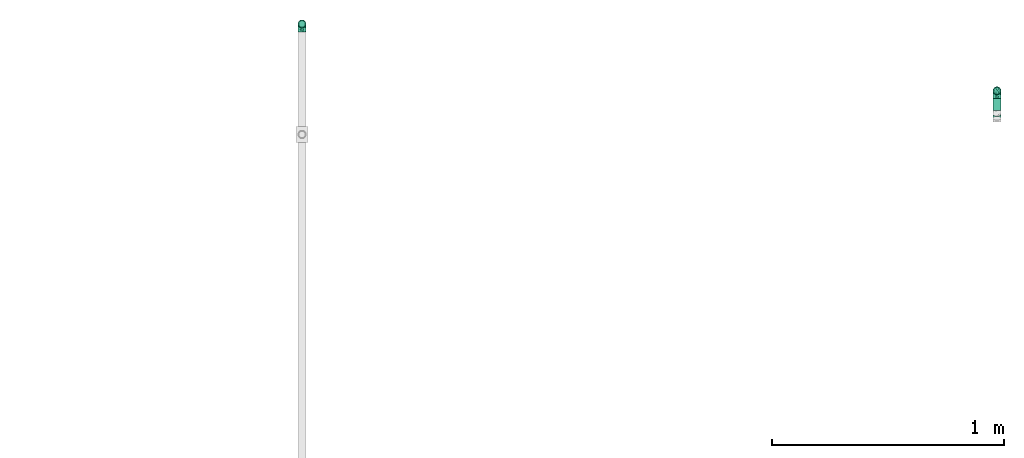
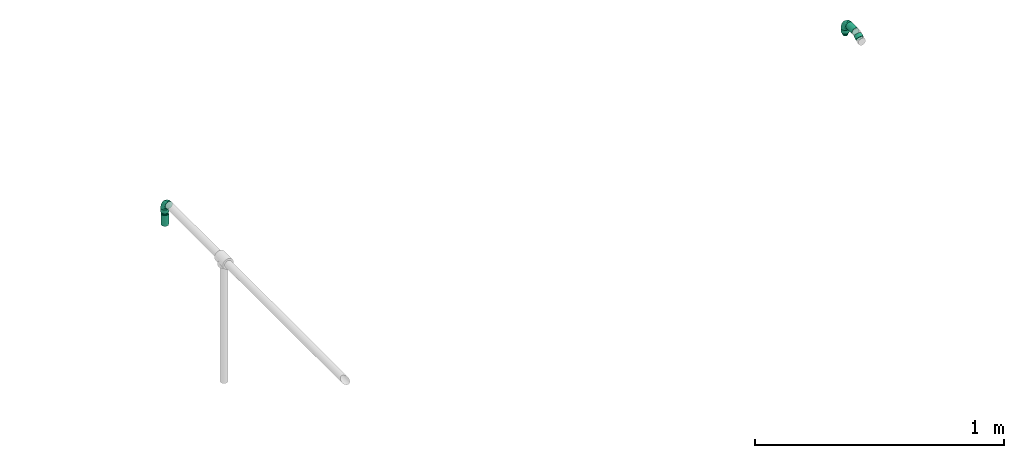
# One storey, part 12 of 17: 4 flow fittings, 4 flow segments, 1 flow terminal.
"""IFC2X3 building model written with IfcOpenShell, lengths in millimetres."""

from ifc_helpers import new_model, entity, si_unit, converted_unit, derived_unit, direction, frame, origin_with_axes, origin_2d_with_axis, place, context, subcontext, project, spatial, hollow_circle, extrude, open_shell, surface_model, source, transform, mapped, type_object, element, save


model = new_model("IFC2X3")

# Units and contexts
model_context = context("Model", 3, precision=0.01, world=frame((0.0, 4.29681676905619e-09, 0.0)), true_north=direction((4.01073788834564e-13, 1.0)))
plan_context = context("Plan", 3, precision=0.01, world=frame((0.0, 4.29681676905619e-09, 0.0)), true_north=direction((4.01073788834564e-13, 1.0)))
body_context = subcontext(model_context, "Body", "Model", "MODEL_VIEW")
ifc_project = project(units=[converted_unit("PLANEANGLEUNIT", "DEGREE", entity("IfcPositiveLengthMeasure", 0.0174532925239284), si_unit("PLANEANGLEUNIT", "RADIAN"), dimensions=[0, 0, 0, 0, 0, 0, 0]), si_unit("AREAUNIT", "SQUARE_METRE"), si_unit("LENGTHUNIT", "METRE", prefix="MILLI"), si_unit("MASSUNIT", "GRAM", prefix="KILO"), si_unit("POWERUNIT", "WATT"), si_unit("PRESSUREUNIT", "PASCAL"), si_unit("FORCEUNIT", "NEWTON", prefix="KILO"), si_unit("ELECTRICVOLTAGEUNIT", "VOLT"), si_unit("ELECTRICCURRENTUNIT", "AMPERE"), si_unit("THERMODYNAMICTEMPERATUREUNIT", "DEGREE_CELSIUS"), si_unit("TIMEUNIT", "SECOND"), si_unit("VOLUMEUNIT", "CUBIC_METRE"), derived_unit("LINEARVELOCITYUNIT", [(si_unit("LENGTHUNIT", "METRE"), 1), (si_unit("TIMEUNIT", "SECOND"), -1)]), derived_unit("VOLUMETRICFLOWRATEUNIT", [(si_unit("VOLUMEUNIT", "CUBIC_METRE"), 1), (si_unit("TIMEUNIT", "SECOND"), -1)]), derived_unit("THERMALTRANSMITTANCEUNIT", [(si_unit("POWERUNIT", "WATT"), 1), (si_unit("THERMODYNAMICTEMPERATUREUNIT", "KELVIN"), -1), (si_unit("AREAUNIT", "SQUARE_METRE"), -1)]), derived_unit("SOUNDPRESSUREUNIT", [(si_unit("PRESSUREUNIT", "PASCAL"), 1)])], contexts=[model_context, plan_context])

# Site, building, storey
site_placement = place(None, frame((0.0, -4.29681676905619e-09, 0.0), z_axis=(0.0, 0.0, 1.0), x_axis=(1.0, 0.0, 0.0)))
site = spatial("IfcSite", under=ifc_project, at=site_placement, Name="ENGM", CompositionType="ELEMENT")
building_placement = place(site_placement, frame((0.0, 4.29681676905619e-09, 0.0), z_axis=(0.0, 0.0, 1.0), x_axis=(1.0, 0.0, 0.0)))
building = spatial("IfcBuilding", under=site, at=building_placement, Name="TH", CompositionType="ELEMENT")
storey_placement = place(building_placement, frame((0.0, 0.0, 205200.0), z_axis=(0.0, 0.0, 1.0), x_axis=(1.0, 0.0, 0.0)))
storey = spatial("IfcBuildingStorey", under=building, at=storey_placement, Name="Nivå D + 1,2 m", CompositionType="ELEMENT", Elevation=205200.0)

# Flow fittings
pipe_fitting_type_1 = type_object("IfcPipeFittingType", Name="magi_pipe_fe_elbow_short_001", PredefinedType="BEND")
shared_shape_1 = source(origin_with_axes(), body_context, "Body", "SurfaceModel", [
    surface_model("IfcShellBasedSurfaceModel", [(-33.8, 8.45, -14.63583), (-33.8, 4.37404, -16.32415), (-33.8, 11.9501, -11.9501), (-33.8, -11.9501, -11.9501), (-33.8, -14.63583, -8.45), (-33.8, -8.45, -14.63583), (-33.8, 0.0, -16.9), (-33.8, -4.37404, -16.32415), (-33.8, -4.37404, 16.32415), (-33.8, 0.0, 16.9), (-33.8, -8.45, 14.63583), (-33.8, 16.32415, -4.37404), (-33.8, 14.63583, -8.45), (-33.8, -16.32415, -4.37404), (-33.8, -16.9, 0.0), (-33.8, -16.32415, 4.37404), (-33.8, 11.9501, 11.9501), (-33.8, 14.63583, 8.45), (-33.8, 16.32415, 4.37404), (-33.8, 4.37404, 16.32415), (-33.8, 8.45, 14.63583), (-33.8, -14.63583, 8.45), (-33.8, -11.9501, 11.9501), (-33.8, 16.9, 0.0), (-11.9501, 33.8, -11.9501), (0.0, 33.8, -16.9), (-4.37404, 33.8, -16.32415), (-8.45, 33.8, -14.63583), (-14.63583, 33.8, -8.45), (-16.32415, 33.8, -4.37404), (14.63583, 33.8, -8.45), (8.45, 33.8, 14.63583), (16.32415, 33.8, -4.37404), (8.45, 33.8, -14.63583), (11.9501, 33.8, -11.9501), (4.37404, 33.8, -16.32415), (16.32415, 33.8, 4.37404), (16.9, 33.8, 0.0), (-11.9501, 33.8, 11.9501), (-16.32415, 33.8, 4.37404), (-14.63583, 33.8, 8.45), (-8.45, 33.8, 14.63583), (-4.37404, 33.8, 16.32415), (11.9501, 33.8, 11.9501), (14.63583, 33.8, 8.45), (0.0, 33.8, 16.9), (4.37404, 33.8, 16.32415), (-16.9, 33.8, 0.0), (-24.79389, -13.12945, 9.48721), (-22.19287, -9.75018, 12.59315), (-24.09897, -14.97035, 0.0), (-14.93934, -10.76256, 8.5297), (-22.46095, -14.75051, 5.27077), (14.75051, 22.46094, 5.27077), (11.9251, 13.23888, 4.33236), (13.04069, 14.39795, 0.0), (7.71387, 13.68847, 11.55891), (9.75018, 22.19287, 12.59315), (4.10169, 13.0571, 14.04018), (-24.84007, -6.39063, 15.2048), (-25.81779, -2.23879, 16.61097), (-23.66549, 2.59054, 16.87119), (-26.50418, 14.06512, 11.08152), (-24.21253, 17.66365, 7.72657), (-29.58514, 15.86957, 7.00283), (-6.17382, -7.5455, 0.0), (-13.23888, -11.9251, 4.33236), (-14.39795, -13.04069, 0.0), (-17.81434, 18.87373, 11.97104), (-6.30846, 29.15138, 15.82987), (-2.31622, 25.28002, 16.85849), (-29.23923, 10.23435, 13.77053), (-1.45439, -2.85688, 7.61475), (-0.28326, 0.34872, 10.09509), (-5.74484, -4.04709, 10.4122), (-4.41137, 11.31918, 16.59407), (-8.39727, 3.10034, 15.7812), (-1.72649, 9.1306, 15.53089), (-17.39909, 24.75344, 7.64977), (-26.19233, 20.0512, 0.0), (-28.14518, 17.29657, 4.25857), (-26.05147, 6.6281, 15.96447), (-5.87354, 16.61944, 16.86968), (-12.51807, 12.51807, 16.48937), (-10.06312, 7.38516, 16.81295), (-3.01882, 3.01882, 13.81718), (-13.0571, -4.10169, 14.04018), (-16.82553, -0.15166, 16.38038), (10.76256, 14.93934, 8.5297), (13.12945, 24.79389, 9.48721), (6.39063, 24.84007, 15.2048), (2.23879, 25.81779, 16.61097), (-13.68847, -7.71387, 11.55891), (14.97035, 24.09897, 0.0), (-7.30894, 22.89991, 16.09489), (-10.67958, 26.17414, 14.008), (-12.78295, 18.26924, 15.06066), (-13.88562, 22.45231, 12.93244), (-18.04944, 15.16501, 14.04434), (-23.11658, 20.08178, 4.02986), (-21.84989, 21.84989, 0.0), (-18.55817, 25.48277, 3.93065), (-13.95142, 26.94732, 11.03289), (-18.57098, 7.23906, 16.59756), (-16.58335, 4.14122, 16.89279), (-17.96666, 11.46709, 15.63151), (-9.84453, 17.54304, 16.18938), (0.15166, 16.82553, 16.38038), (-23.27207, 11.47201, 14.23154), (3.84842, 5.86994, 10.70473), (-8.0212, -7.54413, 7.93275), (1.00345, -2.19508, 4.57414), (5.13203, 3.01004, 5.90201), (5.24161, 1.7543, 2.53265), (8.70457, 7.04947, 3.99182), (-20.0512, 26.19233, 0.0), (8.4852, 8.76699, 7.09296), (-4.55488, -6.72064, 4.90681), (2.05031, -2.05031, 0.0), (7.5455, 6.17382, 0.0), (-26.75399, 2.1369, -16.845), (-14.61995, 24.73803, -11.27736), (-28.45274, -13.45335, -9.81895), (-26.00469, 6.63555, -15.96645), (-23.06726, 20.04573, -4.26202), (-13.80647, -4.26506, -14.17873), (-14.67501, -0.21081, -16.07388), (-6.7902, -0.2828, -13.8478), (-24.53586, 11.08096, -14.13417), (-26.72048, 14.00837, -11.05776), (10.0967, 24.44989, -12.75976), (5.83237, 21.40218, -15.03047), (6.66249, 28.54238, -15.38093), (-20.38182, 15.48705, -12.74596), (12.53268, 21.23441, -9.15363), (12.54494, 15.67504, -5.54878), (9.7522, 12.89279, -8.66343), (-15.65186, 19.64213, -13.01327), (-12.03528, 20.66498, -14.67665), (-15.61907, 15.61906, -14.83879), (-25.56551, -15.26206, 0.0), (-24.65452, -15.12934, -5.50955), (13.45335, 28.45274, -9.81895), (15.12934, 24.65452, -5.50955), (-7.35442, -8.31014, -5.65563), (-15.67504, -12.54494, -5.54878), (-24.44989, -10.0967, -12.75976), (0.16522, 0.41303, -9.71728), (-5.70658, -5.33066, -8.89288), (-5.13869, -2.37198, -11.53565), (-21.23441, -12.53268, -9.15363), (0.71146, 7.93863, -14.09382), (0.21081, 14.67501, -16.07388), (3.49291, 14.42772, -14.76381), (-24.89911, -2.13088, -16.591), (-28.54238, -6.66249, -15.38093), (-18.44386, -7.71663, -13.26957), (2.13088, 24.89911, -16.591), (-28.64342, 17.44413, -2.89318), (1.70017, -1.28722, -5.09504), (-16.57067, 26.81947, -7.36596), (-17.69055, 27.4263, -3.76405), (-12.89279, -9.7522, -8.66343), (-5.96611, 5.96611, -15.95814), (-20.53709, 20.09345, -8.28985), (-2.1369, 26.75399, -16.845), (-6.89872, 24.58781, -16.02578), (-10.60739, 26.53157, -13.98044), (-21.40218, -5.83237, -15.03047), (2.93192, 5.89627, -11.55917), (6.89393, 12.61842, -11.82233), (5.58056, 5.95325, -8.79455), (-3.99512, 18.61798, -16.89635), (8.31014, 7.35442, -5.65563), (-9.1383, 9.86148, -16.89041), (-9.99983, 16.02119, -16.39699), (-16.68576, 9.78031, -16.34199), (-27.01915, 16.61158, -7.12979), (15.26206, 25.56551, 0.0), (-18.61798, 3.99512, -16.89635), (-19.37495, 27.82495, 0.0), (-12.61842, -6.89393, -11.82233), (-18.84705, 19.14018, -10.96545)], [open_shell([[[0, 1, 2]], [[3, 4, 5]], [[6, 7, 5]], [[8, 9, 10]], [[1, 6, 2]], [[11, 12, 2]], [[4, 2, 6]], [[2, 13, 10]], [[5, 4, 6]], [[2, 4, 13]], [[14, 15, 13]], [[11, 2, 16]], [[11, 17, 18]], [[11, 16, 17]], [[19, 20, 16]], [[16, 2, 10]], [[19, 16, 10]], [[21, 22, 15]], [[22, 13, 15]], [[22, 10, 13]], [[10, 9, 19]], [[11, 18, 23]], [[24, 25, 26]], [[24, 26, 27]], [[24, 28, 29]], [[25, 24, 30]], [[31, 32, 24]], [[33, 30, 34]], [[33, 35, 25]], [[25, 30, 33]], [[32, 30, 24]], [[32, 36, 37]], [[38, 24, 29]], [[39, 40, 29]], [[40, 38, 29]], [[38, 41, 42]], [[38, 31, 24]], [[31, 38, 42]], [[36, 43, 44]], [[36, 32, 43]], [[31, 45, 46]], [[32, 31, 43]], [[42, 45, 31]], [[39, 29, 47]], [[22, 48, 49]], [[15, 14, 50]], [[51, 48, 52]], [[53, 54, 55]], [[48, 22, 21]], [[15, 52, 21]], [[56, 57, 58]], [[49, 10, 22]], [[49, 59, 10]], [[9, 60, 61]], [[62, 63, 64]], [[65, 66, 67]], [[57, 43, 31]], [[62, 68, 63]], [[42, 69, 70]], [[20, 71, 16]], [[8, 60, 9]], [[72, 73, 74]], [[75, 76, 77]], [[16, 62, 17]], [[40, 39, 78]], [[79, 23, 80]], [[64, 18, 17]], [[9, 61, 19]], [[19, 81, 20]], [[82, 83, 84]], [[74, 85, 86]], [[59, 86, 87]], [[88, 89, 57]], [[90, 31, 46]], [[44, 53, 36]], [[46, 45, 91]], [[54, 53, 88]], [[44, 89, 53]], [[92, 86, 49]], [[89, 44, 43]], [[10, 59, 8]], [[53, 55, 93]], [[93, 36, 53]], [[66, 52, 67]], [[94, 82, 70]], [[95, 96, 94]], [[97, 98, 96]], [[79, 99, 100]], [[41, 38, 95]], [[101, 100, 99]], [[68, 78, 63]], [[42, 41, 69]], [[23, 18, 80]], [[95, 94, 69]], [[78, 101, 99]], [[38, 102, 95]], [[70, 45, 42]], [[97, 95, 102]], [[15, 50, 52]], [[90, 57, 31]], [[57, 90, 58]], [[81, 19, 61]], [[103, 104, 84]], [[105, 81, 103]], [[38, 40, 102]], [[106, 96, 83]], [[94, 106, 82]], [[91, 70, 107]], [[71, 62, 16]], [[62, 108, 98]], [[86, 59, 49]], [[67, 52, 50]], [[60, 59, 87]], [[92, 49, 51]], [[86, 85, 76]], [[91, 90, 46]], [[37, 36, 93]], [[107, 77, 58]], [[107, 58, 90]], [[58, 85, 109]], [[110, 74, 92]], [[72, 74, 110]], [[66, 51, 52]], [[72, 111, 112]], [[113, 114, 112]], [[56, 88, 57]], [[52, 48, 21]], [[49, 48, 51]], [[57, 89, 43]], [[53, 89, 88]], [[103, 81, 61]], [[71, 81, 108]], [[18, 64, 80]], [[63, 78, 99]], [[47, 115, 101]], [[101, 115, 100]], [[40, 78, 102]], [[68, 102, 78]], [[97, 96, 95]], [[105, 98, 108]], [[103, 84, 83]], [[107, 70, 82]], [[76, 84, 87]], [[82, 84, 75]], [[70, 91, 45]], [[90, 91, 107]], [[59, 60, 8]], [[61, 60, 87]], [[73, 85, 74]], [[109, 112, 116]], [[103, 61, 104]], [[105, 103, 83]], [[96, 105, 83]], [[81, 105, 108]], [[96, 98, 105]], [[62, 98, 68]], [[61, 87, 104]], [[87, 84, 104]], [[86, 76, 87]], [[77, 76, 85]], [[58, 77, 85]], [[75, 77, 107]], [[82, 75, 107]], [[76, 75, 84]], [[81, 71, 20]], [[62, 71, 108]], [[95, 69, 41]], [[70, 69, 94]], [[62, 64, 17]], [[80, 63, 99]], [[63, 80, 64]], [[80, 99, 79]], [[66, 65, 117]], [[110, 66, 117]], [[112, 114, 116]], [[118, 117, 65]], [[110, 92, 51]], [[112, 111, 113]], [[119, 55, 54]], [[74, 86, 92]], [[58, 109, 56]], [[116, 56, 109]], [[66, 110, 51]], [[72, 110, 117]], [[111, 72, 117]], [[73, 112, 109]], [[117, 118, 111]], [[113, 111, 118]], [[118, 119, 113]], [[114, 119, 54]], [[119, 114, 113]], [[116, 54, 88]], [[54, 116, 114]], [[116, 88, 56]], [[112, 73, 72]], [[85, 73, 109]], [[78, 39, 101]], [[47, 101, 39]], [[102, 68, 97]], [[97, 68, 98]], [[82, 106, 83]], [[94, 96, 106]], [[1, 120, 6]], [[28, 24, 121]], [[3, 122, 4]], [[0, 123, 1]], [[100, 124, 79]], [[125, 126, 127]], [[128, 2, 129]], [[130, 131, 132]], [[128, 129, 133]], [[134, 135, 136]], [[137, 138, 139]], [[128, 0, 2]], [[67, 140, 141]], [[134, 142, 143]], [[141, 13, 4]], [[144, 65, 145]], [[146, 3, 5]], [[147, 148, 149]], [[145, 141, 150]], [[151, 152, 153]], [[154, 7, 6]], [[5, 155, 146]], [[150, 146, 156]], [[155, 5, 7]], [[143, 135, 134]], [[35, 157, 25]], [[23, 79, 158]], [[148, 159, 144]], [[160, 161, 29]], [[145, 162, 144]], [[163, 152, 151]], [[29, 28, 160]], [[121, 164, 160]], [[33, 34, 130]], [[25, 165, 26]], [[26, 165, 166]], [[142, 34, 30]], [[24, 27, 167]], [[124, 161, 164]], [[157, 35, 132]], [[155, 154, 168]], [[123, 0, 128]], [[169, 170, 171]], [[172, 157, 152]], [[26, 166, 27]], [[132, 35, 33]], [[142, 130, 34]], [[168, 154, 126]], [[136, 135, 173]], [[133, 137, 139]], [[2, 12, 129]], [[170, 131, 130]], [[30, 32, 143]], [[172, 174, 175]], [[176, 123, 128]], [[158, 177, 11]], [[135, 55, 119]], [[167, 27, 166]], [[175, 166, 172]], [[137, 167, 138]], [[122, 141, 4]], [[140, 14, 13]], [[32, 37, 178]], [[170, 130, 134]], [[152, 157, 131]], [[165, 157, 172]], [[153, 170, 151]], [[152, 163, 174]], [[168, 125, 156]], [[122, 146, 150]], [[120, 154, 6]], [[179, 174, 126]], [[179, 126, 154]], [[126, 163, 127]], [[162, 145, 150]], [[140, 13, 141]], [[32, 178, 143]], [[55, 143, 178]], [[177, 129, 12]], [[128, 133, 139]], [[176, 128, 139]], [[120, 123, 179]], [[121, 160, 28]], [[161, 100, 180]], [[166, 175, 138]], [[121, 24, 167]], [[161, 47, 29]], [[79, 124, 158]], [[124, 164, 177]], [[161, 124, 100]], [[136, 171, 170]], [[127, 163, 151]], [[147, 171, 159]], [[148, 144, 162]], [[127, 151, 169]], [[127, 181, 125]], [[129, 177, 164]], [[12, 11, 177]], [[159, 65, 144]], [[67, 141, 145]], [[143, 55, 135]], [[135, 119, 173]], [[123, 120, 1]], [[154, 120, 179]], [[157, 165, 25]], [[166, 165, 172]], [[172, 152, 174]], [[176, 139, 175]], [[126, 174, 163]], [[176, 174, 179]], [[174, 176, 175]], [[123, 176, 179]], [[150, 181, 162]], [[127, 149, 181]], [[181, 148, 162]], [[159, 148, 147]], [[171, 136, 173]], [[170, 134, 136]], [[159, 171, 173]], [[171, 147, 169]], [[169, 147, 149]], [[151, 170, 169]], [[164, 182, 129]], [[182, 121, 137]], [[181, 149, 148]], [[169, 149, 127]], [[182, 137, 133]], [[167, 137, 121]], [[166, 138, 167]], [[175, 139, 138]], [[129, 182, 133]], [[121, 182, 164]], [[161, 160, 164]], [[47, 161, 180]], [[177, 158, 124]], [[23, 158, 11]], [[130, 132, 33]], [[157, 132, 131]], [[143, 142, 30]], [[130, 142, 134]], [[154, 155, 7]], [[146, 155, 168]], [[146, 122, 3]], [[141, 122, 150]], [[152, 131, 153]], [[159, 119, 118]], [[67, 145, 65]], [[170, 153, 131]], [[119, 159, 173]], [[159, 118, 65]], [[156, 125, 181]], [[126, 125, 168]], [[150, 156, 181]], [[168, 156, 146]]])]),
])
for number, where, z_axis, x_axis, name in (
    (1, (905442.5, 482557.71015, 4442.5), (-1.0, 0.0, 0.0), (0.0, 1.0, 0.0), "magi_pipe_fe_elbow_short_001"),
    (2, (908433.37511, 482270.07222, 4451.24450999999), (-1.0, 0.0, 0.0), (0.0, 1.0, 0.0), "magi_pipe_fe_elbow_short_001"),
):
    element("IfcFlowFitting", number, at=place(storey_placement, frame(where, z_axis=z_axis, x_axis=x_axis)), inside=storey, type_object=pipe_fitting_type_1, Name=name, context=body_context, shape_type="MappedRepresentation", body=[
        mapped(shared_shape_1, transform((0.0, 0.0, 0.0), scale=1.0)),
    ])
pipe_fitting_type_2 = type_object("IfcPipeFittingType", Name="magi_pipe_fe_reducer_centric_short_NOR", PredefinedType="TRANSITION")
shared_shape_2 = source(origin_with_axes(), body_context, "Body", "SurfaceModel", [
    surface_model("IfcShellBasedSurfaceModel", [(14.4, 5.35, -9.26647), (14.4, 0.0, -10.7), (14.4, 2.76936, -10.33541), (14.4, 10.33541, -2.76936), (14.4, 7.56604, -7.56604), (14.4, 9.26647, -5.35), (14.4, -5.35, -9.26647), (14.4, -2.76936, -10.33541), (14.4, -7.56604, -7.56604), (14.4, -10.33541, -2.76936), (14.4, -9.26647, -5.35), (14.4, 10.33541, 2.76936), (14.4, 9.26647, 5.35), (14.4, 7.56604, 7.56604), (14.4, 2.76936, 10.33541), (14.4, 5.35, 9.26647), (14.4, -7.56604, 7.56604), (14.4, -2.76936, 10.33541), (14.4, -5.35, 9.26647), (12.4, 7.56604, 7.56604), (12.4, 9.26647, 5.35), (12.4, 10.33541, 2.76936), (12.4, -2.76936, 10.33541), (12.4, -7.56604, 7.56604), (12.4, -5.35, 9.26647), (12.4, -10.33541, 2.76936), (12.4, -9.26647, 5.35), (12.4, 0.0, 10.7), (12.4, -10.33541, -2.76936), (12.4, -10.7, 0.0), (12.4, -5.35, -9.26647), (12.4, 0.0, -10.7), (12.4, -2.76936, -10.33541), (12.4, 2.76936, -10.33541), (12.4, 10.33541, -2.76936), (12.4, 10.7, 0.0), (12.4, -9.26647, -5.35), (12.4, -7.56604, -7.56604), (14.4, -10.7, 0.0), (12.4, 5.35, -9.26647), (12.4, 7.56604, -7.56604), (12.4, 9.26647, -5.35), (14.4, 10.7, 0.0), (12.4, 5.35, 9.26647), (12.4, 2.76936, 10.33541), (14.4, 0.0, 10.7), (14.4, -9.26647, 5.35), (14.4, -10.33541, 2.76936), (-2.0, 11.9501, 11.9501), (-2.0, 0.0, 16.9), (-2.0, 4.37404, 16.32415), (-2.0, 8.45, 14.63583), (-2.0, 14.63583, 8.45), (-2.0, 16.32415, 4.37404), (-2.0, -16.32415, 4.37404), (-2.0, -8.45, 14.63583), (-2.0, -14.63583, 8.45), (-2.0, -11.9501, 11.9501), (-2.0, -4.37404, 16.32415), (-2.0, -16.32415, -4.37404), (-2.0, -16.9, 0.0), (-2.0, -8.45, -14.63583), (-2.0, 16.32415, -4.37404), (-2.0, 11.9501, -11.9501), (-2.0, 14.63583, -8.45), (-2.0, 8.45, -14.63583), (-2.0, 4.37404, -16.32415), (-2.0, 0.0, -16.9), (-2.0, -11.9501, -11.9501), (-2.0, -14.63583, -8.45), (-2.0, -4.37404, -16.32415), (-2.0, 16.9, 0.0), (0.0, 4.37404, -16.32415), (0.0, 8.45, -14.63583), (0.0, 11.9501, -11.9501), (0.0, 0.0, -16.9), (0.0, 16.32415, -4.37404), (0.0, 16.32415, 4.37404), (0.0, 14.63583, -8.45), (0.0, -8.45, -14.63583), (0.0, -4.37404, -16.32415), (0.0, -11.9501, -11.9501), (0.0, -16.32415, -4.37404), (0.0, -14.63583, -8.45), (0.0, -16.32415, 4.37404), (0.0, 16.9, 0.0), (0.0, 14.63583, 8.45), (0.0, 11.9501, 11.9501), (0.0, 4.37404, 16.32415), (0.0, 8.45, 14.63583), (0.0, 0.0, 16.9), (0.0, -14.63583, 8.45), (0.0, -16.9, 0.0), (0.0, -8.45, 14.63583), (0.0, -11.9501, 11.9501), (0.0, -4.37404, 16.32415), (12.4, 9.3625, -2.31662), (0.0, 14.42505, -5.97505), (0.0, 15.66253, -2.98753), (12.4, -6.6875, -6.94985), (0.0, -13.18758, -8.96258), (0.0, 2.98753, -15.66253), (12.4, 0.0, -9.26647), (12.4, 6.6875, -6.94985), (0.0, 8.96258, -13.18758), (12.4, -9.3625, -2.31662), (0.0, -15.66253, -2.98753), (0.0, -14.42505, -5.97505), (0.0, 5.97505, -14.42505), (0.0, -2.98753, -15.66253), (0.0, -8.96258, -13.18758), (0.0, 13.18758, -8.96258), (12.4, 8.025, -4.63324), (12.4, -2.675, -9.26647), (12.4, 2.675, -9.26647), (0.0, -5.97505, -14.42505), (12.4, -8.025, -4.63324), (12.4, -9.3625, 2.31662), (0.0, -14.42505, 5.97505), (0.0, -15.66253, 2.98753), (12.4, 6.6875, 6.94985), (0.0, 13.18758, 8.96258), (0.0, -2.98753, 15.66253), (12.4, 0.0, 9.26647), (12.4, -6.6875, 6.94985), (0.0, -8.96258, 13.18758), (12.4, 9.3625, 2.31662), (0.0, 15.66253, 2.98753), (0.0, 14.42505, 5.97505), (0.0, -5.97505, 14.42505), (0.0, 2.98753, 15.66253), (0.0, 8.96258, 13.18758), (0.0, -13.18758, 8.96258), (12.4, -8.025, 4.63324), (12.4, 2.675, 9.26647), (12.4, -2.675, 9.26647), (0.0, 5.97505, 14.42505), (12.4, 8.025, 4.63324)], [open_shell([[[0, 1, 2]], [[3, 0, 4]], [[3, 4, 5]], [[1, 6, 7]], [[1, 0, 6]], [[8, 9, 10]], [[9, 8, 6]], [[11, 12, 13]], [[14, 13, 15]], [[16, 17, 18]], [[19, 20, 21]], [[22, 23, 24]], [[23, 22, 25]], [[23, 25, 26]], [[22, 27, 25]], [[25, 28, 29]], [[30, 31, 32]], [[30, 28, 33]], [[33, 31, 30]], [[34, 21, 35]], [[28, 9, 29]], [[36, 10, 28]], [[6, 37, 30]], [[36, 37, 8]], [[7, 30, 32]], [[28, 10, 9]], [[9, 38, 29]], [[7, 6, 30]], [[8, 37, 6]], [[8, 10, 36]], [[1, 7, 32]], [[32, 31, 1]], [[33, 2, 31]], [[39, 0, 33]], [[5, 40, 41]], [[39, 40, 4]], [[3, 41, 34]], [[39, 4, 0]], [[0, 2, 33]], [[42, 3, 34]], [[5, 41, 3]], [[5, 4, 40]], [[35, 42, 34]], [[31, 2, 1]], [[21, 11, 35]], [[20, 12, 21]], [[15, 19, 43]], [[20, 19, 13]], [[14, 43, 44]], [[21, 12, 11]], [[11, 42, 35]], [[14, 15, 43]], [[13, 19, 15]], [[13, 12, 20]], [[45, 14, 44]], [[44, 27, 45]], [[22, 17, 27]], [[24, 18, 22]], [[46, 23, 26]], [[24, 23, 16]], [[47, 26, 25]], [[24, 16, 18]], [[18, 17, 22]], [[38, 47, 25]], [[46, 26, 47]], [[46, 16, 23]], [[29, 38, 25]], [[27, 17, 45]], [[48, 49, 50]], [[48, 50, 51]], [[48, 52, 53]], [[48, 53, 49]], [[49, 53, 54]], [[55, 56, 57]], [[55, 58, 49]], [[56, 55, 49]], [[49, 54, 56]], [[54, 59, 60]], [[54, 53, 61]], [[53, 62, 63]], [[63, 62, 64]], [[63, 65, 66]], [[61, 53, 63]], [[67, 63, 66]], [[59, 68, 69]], [[68, 59, 61]], [[61, 67, 70]], [[59, 54, 61]], [[63, 67, 61]], [[53, 71, 62]], [[72, 73, 74]], [[75, 72, 74]], [[74, 76, 77]], [[76, 74, 78]], [[74, 77, 79]], [[75, 79, 80]], [[75, 74, 79]], [[81, 82, 83]], [[82, 81, 79]], [[79, 84, 82]], [[77, 76, 85]], [[77, 86, 87]], [[77, 87, 88]], [[88, 84, 79]], [[88, 87, 89]], [[84, 88, 90]], [[90, 91, 84]], [[92, 82, 84]], [[91, 93, 94]], [[91, 90, 93]], [[93, 90, 95]], [[79, 77, 88]], [[59, 82, 60]], [[69, 83, 59]], [[79, 68, 61]], [[69, 68, 81]], [[80, 61, 70]], [[59, 83, 82]], [[82, 92, 60]], [[80, 79, 61]], [[81, 68, 79]], [[81, 83, 69]], [[75, 80, 70]], [[70, 67, 75]], [[66, 72, 67]], [[65, 73, 66]], [[78, 63, 64]], [[65, 63, 74]], [[76, 64, 62]], [[65, 74, 73]], [[73, 72, 66]], [[85, 76, 62]], [[78, 64, 76]], [[78, 74, 63]], [[71, 85, 62]], [[67, 72, 75]], [[53, 77, 71]], [[52, 86, 53]], [[89, 48, 51]], [[52, 48, 87]], [[88, 51, 50]], [[53, 86, 77]], [[77, 85, 71]], [[88, 89, 51]], [[87, 48, 89]], [[87, 86, 52]], [[90, 88, 50]], [[50, 49, 90]], [[58, 95, 49]], [[55, 93, 58]], [[91, 57, 56]], [[55, 57, 94]], [[84, 56, 54]], [[55, 94, 93]], [[93, 95, 58]], [[92, 84, 54]], [[91, 56, 84]], [[91, 94, 57]], [[60, 92, 54]], [[49, 95, 90]], [[43, 24, 35]], [[35, 24, 30]], [[30, 39, 35]], [[30, 24, 29]], [[87, 74, 92]], [[75, 92, 74]], [[81, 92, 75]], [[74, 87, 85]], [[96, 97, 98]], [[81, 99, 100]], [[101, 102, 75]], [[98, 85, 35]], [[74, 103, 104]], [[104, 103, 39]], [[105, 106, 107]], [[39, 108, 104]], [[102, 109, 75]], [[110, 99, 81]], [[35, 96, 98]], [[103, 111, 112]], [[109, 102, 113]], [[29, 92, 106]], [[102, 101, 114]], [[110, 115, 30]], [[96, 112, 97]], [[107, 116, 105]], [[29, 106, 105]], [[113, 115, 109]], [[30, 115, 113]], [[116, 107, 100]], [[108, 39, 114]], [[111, 103, 74]], [[111, 97, 112]], [[99, 110, 30]], [[116, 100, 99]], [[101, 108, 114]], [[117, 118, 119]], [[87, 120, 121]], [[122, 123, 90]], [[119, 92, 29]], [[94, 124, 125]], [[125, 124, 24]], [[126, 127, 128]], [[24, 129, 125]], [[123, 130, 90]], [[131, 120, 87]], [[29, 117, 119]], [[124, 132, 133]], [[130, 123, 134]], [[35, 85, 127]], [[123, 122, 135]], [[131, 136, 43]], [[117, 133, 118]], [[128, 137, 126]], [[35, 127, 126]], [[134, 136, 130]], [[43, 136, 134]], [[137, 128, 121]], [[129, 24, 135]], [[132, 124, 94]], [[132, 118, 133]], [[120, 131, 43]], [[137, 121, 120]], [[122, 129, 135]], [[6, 0, 3]], [[46, 6, 3]], [[6, 46, 9]], [[11, 3, 42]], [[3, 13, 46]], [[14, 45, 13]], [[46, 13, 45]], [[9, 47, 38]], [[46, 47, 9]], [[17, 16, 46]], [[45, 17, 46]], [[3, 11, 13]], [[27, 44, 43]], [[27, 43, 19]], [[27, 19, 25]], [[34, 25, 19]], [[34, 19, 21]], [[28, 25, 34]], [[33, 34, 41]], [[40, 39, 33]], [[40, 33, 41]], [[28, 34, 33]], [[28, 37, 36]], [[37, 28, 30]], [[90, 87, 92]], [[92, 94, 90]]])]),
])
for number, where, z_axis, x_axis, name in (
    (3, (905442.5, 482557.71015, 4390.64843999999), (0.0, -1.0, 0.0), (0.0, 0.0, -1.0), "magi_pipe_fe_reducer_centric_short_NOR"),
    (4, (908433.37511, 482270.07222, 4400.06951999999), (0.0, -1.0, 0.0), (0.0, 0.0, -1.0), "magi_pipe_fe_reducer_centric_short_NOR"),
):
    element("IfcFlowFitting", number, at=place(storey_placement, frame(where, z_axis=z_axis, x_axis=x_axis)), inside=storey, type_object=pipe_fitting_type_2, Name=name, context=body_context, shape_type="MappedRepresentation", body=[
        mapped(shared_shape_2, transform((0.0, 0.0, 0.0), scale=1.0)),
    ])

# Flow segments
pipe_segment_type = type_object("IfcPipeSegmentType", Name="Stålrør normaltykke", PredefinedType="RIGIDSEGMENT")
shared_shape_3 = source(origin_with_axes(), body_context, "Body", "SweptSolid", [
    extrude(hollow_circle(Radius=16.9, WallThickness=2.0, at=origin_2d_with_axis()), frame((0.0, 0.0, 0.0), z_axis=(1.0, 0.0, 0.0), x_axis=(0.0, 1.0, 0.0)), (0.0, 0.0, 1.0), 18.1),
])
for number, where, z_axis, x_axis in (
    (5, (905442.5, 482557.71015, 4408.70000000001), (0.0, -1.0, 0.0), (0.0, 0.0, -1.0)),
    (6, (908433.37511, 482169.22907, 4446.71622999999), (0.0, -0.500000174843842, 0.866025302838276), (0.0, -0.866025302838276, -0.500000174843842)),
):
    element("IfcFlowSegment", number, at=place(storey_placement, frame(where, z_axis=z_axis, x_axis=x_axis)), inside=storey, type_object=pipe_segment_type, Name="Stålrør normaltykke", context=body_context, shape_type="MappedRepresentation", body=[
        mapped(shared_shape_3, transform((0.0, 0.0, 0.0), scale=1.0)),
    ])
shared_shape_4 = source(origin_with_axes(), body_context, "Body", "SweptSolid", [
    extrude(hollow_circle(Radius=16.9, WallThickness=2.0, at=origin_2d_with_axis()), frame((0.0, 0.0, 0.0), z_axis=(1.0, 0.0, 0.0), x_axis=(0.0, 1.0, 0.0)), (0.0, 0.0, 1.0), 17.4),
])
flow_segment_1_placement = place(storey_placement, frame((908433.37511, 482270.07222, 4417.44451), z_axis=(0.0, -1.0, 0.0), x_axis=(0.0, 0.0, -1.0)))
element("IfcFlowSegment", 7, at=flow_segment_1_placement, inside=storey, type_object=pipe_segment_type, Name="Stålrør normaltykke", context=body_context, shape_type="MappedRepresentation", body=[
    mapped(shared_shape_4, transform((0.0, 0.0, 0.0), scale=1.0)),
])
shared_shape_5 = source(origin_with_axes(), body_context, "Body", "SweptSolid", [
    extrude(hollow_circle(Radius=16.9, WallThickness=2.0, at=origin_2d_with_axis()), frame((0.0, 0.0, 0.0), z_axis=(1.0, 0.0, 0.0), x_axis=(0.0, 1.0, 0.0)), (0.0, 0.0, 1.0), 50.1),
])
flow_segment_2_placement = place(storey_placement, frame((908433.37511, 482236.27222, 4451.24450999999), z_axis=(0.0, 0.0, 1.0), x_axis=(0.0, -1.0, 0.0)))
element("IfcFlowSegment", 8, at=flow_segment_2_placement, inside=storey, type_object=pipe_segment_type, Name="Stålrør normaltykke", context=body_context, shape_type="MappedRepresentation", body=[
    mapped(shared_shape_5, transform((0.0, 0.0, 0.0), scale=1.0)),
])

# Flow terminal
fire_suppression_terminal_type = type_object("IfcFireSuppressionTerminalType", Name="SP-15-K80-68DGR-STD-NEDOVER", PredefinedType="NOTDEFINED")
shared_shape_6 = source(origin_with_axes(), body_context, "Body", "SurfaceModel", [
    surface_model("IfcShellBasedSurfaceModel", [(4.1411, -15.45481, 53.0), (8.0, -13.85641, 53.0), (11.31371, -11.31371, 53.0), (-8.0, -13.85641, 53.0), (15.45481, -4.1411, 53.0), (16.0, 0.0, 53.0), (13.85641, -8.0, 53.0), (0.0, -16.0, 53.0), (-4.1411, -15.45481, 53.0), (-13.85641, -8.0, 53.0), (-11.31371, -11.31371, 53.0), (-15.45481, -4.1411, 53.0), (15.45481, 4.1411, 53.0), (13.85641, 8.0, 53.0), (11.31371, 11.31371, 53.0), (-4.1411, 15.45481, 53.0), (8.0, 13.85641, 53.0), (4.1411, 15.45481, 53.0), (0.0, 16.0, 53.0), (-13.85641, 8.0, 53.0), (-15.45481, 4.1411, 53.0), (-16.0, 0.0, 53.0), (-11.31371, 11.31371, 53.0), (-8.0, 13.85641, 53.0), (0.0, 16.0, 0.0), (4.1411, 15.45481, 0.0), (8.0, 13.85641, 0.0), (-4.1411, 15.45481, 0.0), (11.31371, 11.31371, 0.0), (13.85641, 8.0, 0.0), (15.45481, 4.1411, 0.0), (-15.45481, -4.1411, 0.0), (-11.31371, 11.31371, 0.0), (-8.0, 13.85641, 0.0), (-13.85641, 8.0, 0.0), (-15.45481, 4.1411, 0.0), (-16.0, 0.0, 0.0), (4.1411, -15.45481, 0.0), (16.0, 0.0, 0.0), (15.45481, -4.1411, 0.0), (13.85641, -8.0, 0.0), (11.31371, -11.31371, 0.0), (8.0, -13.85641, 0.0), (-8.0, -13.85641, 0.0), (-13.85641, -8.0, 0.0), (-11.31371, -11.31371, 0.0), (0.0, -16.0, 0.0), (-4.1411, -15.45481, 0.0)], [open_shell([[[0, 1, 2]], [[3, 0, 2]], [[4, 5, 2]], [[4, 2, 6]], [[3, 2, 5]], [[7, 3, 8]], [[7, 0, 3]], [[3, 9, 10]], [[9, 3, 11]], [[5, 11, 3]], [[5, 12, 11]], [[12, 13, 14]], [[15, 12, 14]], [[16, 17, 18]], [[14, 16, 15]], [[18, 15, 16]], [[11, 19, 20]], [[21, 11, 20]], [[22, 15, 23]], [[15, 22, 19]], [[19, 11, 15]], [[11, 12, 15]], [[24, 25, 26]], [[27, 24, 26]], [[28, 29, 30]], [[27, 26, 28]], [[27, 28, 31]], [[27, 32, 33]], [[32, 27, 34]], [[34, 31, 35]], [[31, 34, 27]], [[35, 31, 36]], [[28, 30, 31]], [[37, 38, 39]], [[37, 39, 40]], [[41, 42, 37]], [[41, 37, 40]], [[38, 37, 43]], [[44, 43, 45]], [[43, 44, 31]], [[43, 46, 47]], [[43, 31, 38]], [[37, 46, 43]], [[38, 31, 30]], [[11, 31, 44]], [[45, 9, 44]], [[3, 43, 47]], [[45, 43, 10]], [[8, 47, 46]], [[31, 21, 36]], [[31, 11, 21]], [[44, 9, 11]], [[45, 10, 9]], [[3, 10, 43]], [[47, 8, 3]], [[46, 7, 8]], [[0, 37, 42]], [[41, 1, 42]], [[6, 40, 39]], [[41, 40, 2]], [[4, 39, 38]], [[37, 0, 7]], [[42, 1, 0]], [[41, 2, 1]], [[40, 6, 2]], [[4, 6, 39]], [[38, 5, 4]], [[37, 7, 46]], [[12, 38, 30]], [[13, 30, 29]], [[16, 26, 25]], [[17, 25, 24]], [[30, 13, 12]], [[12, 5, 38]], [[28, 14, 13]], [[28, 26, 14]], [[14, 26, 16]], [[25, 17, 16]], [[28, 13, 29]], [[24, 18, 17]], [[15, 27, 33]], [[32, 23, 33]], [[19, 34, 35]], [[32, 34, 22]], [[20, 35, 36]], [[27, 15, 18]], [[33, 23, 15]], [[32, 22, 23]], [[34, 19, 22]], [[20, 19, 35]], [[36, 21, 20]], [[27, 18, 24]]])]),
])
flow_terminal_placement = place(storey_placement, frame((905442.5, 482557.71015, 4381.29644000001), z_axis=(0.0, 0.0, -1.0), x_axis=(-1.0, 0.0, 0.0)))
element("IfcFlowTerminal", 9, at=flow_terminal_placement, inside=storey, type_object=fire_suppression_terminal_type, Name="SP-15-K80-68DGR-STD-NEDOVER", context=body_context, shape_type="MappedRepresentation", body=[
    mapped(shared_shape_6, transform((0.0, 0.0, 0.0), scale=1.0)),
])

save(model, "model.ifc")
